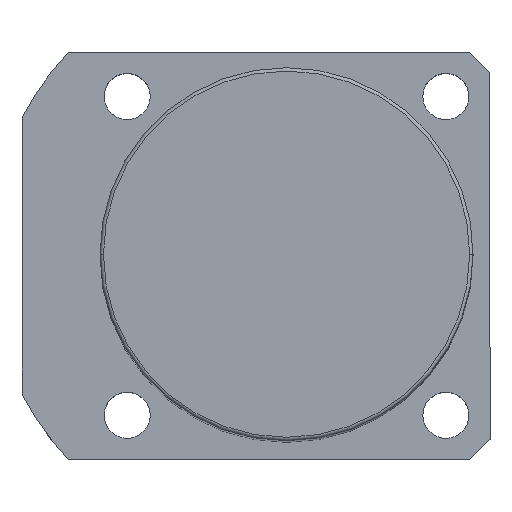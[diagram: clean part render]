
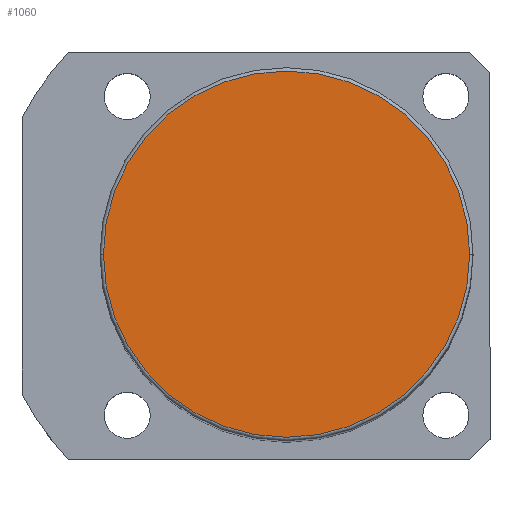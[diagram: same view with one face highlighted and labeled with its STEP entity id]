
A CAD part, top view. The second image highlights one B-rep face of the part: STEP entity #1060.
In plain terms, the highlighted planar face has unit normal (0, 0, 1).
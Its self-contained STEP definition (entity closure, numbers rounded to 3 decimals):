
#4 = CARTESIAN_POINT ( 'NONE',  ( 0., 0., 151. ) ) ;
#70 = EDGE_CURVE ( 'NONE', #1755, #622, #789, .T. ) ;
#72 = AXIS2_PLACEMENT_3D ( 'NONE', #1501, #666, #951 ) ;
#289 = DIRECTION ( 'NONE',  ( 0., 0., 1. ) ) ;
#443 = DIRECTION ( 'NONE',  ( 0., 0., 1. ) ) ;
#576 = CARTESIAN_POINT ( 'NONE',  ( -27., 0., 151. ) ) ;
#622 = VERTEX_POINT ( 'NONE', #1289 ) ;
#666 = DIRECTION ( 'NONE',  ( 0., 0., 1. ) ) ;
#668 = AXIS2_PLACEMENT_3D ( 'NONE', #4, #289, #1000 ) ;
#789 = CIRCLE ( 'NONE', #72, 27. ) ;
#851 = DIRECTION ( 'NONE',  ( 1., 0., 0. ) ) ;
#951 = DIRECTION ( 'NONE',  ( 1., 0., 0. ) ) ;
#1000 = DIRECTION ( 'NONE',  ( 1., 0., 0. ) ) ;
#1002 = CARTESIAN_POINT ( 'NONE',  ( 0., 0., 151. ) ) ;
#1035 = EDGE_LOOP ( 'NONE', ( #1532, #1702 ) ) ;
#1060 = ADVANCED_FACE ( 'NONE', ( #1708 ), #1142, .T. ) ;
#1142 = PLANE ( 'NONE',  #1195 ) ;
#1195 = AXIS2_PLACEMENT_3D ( 'NONE', #1002, #443, #851 ) ;
#1289 = CARTESIAN_POINT ( 'NONE',  ( 27., 0., 151. ) ) ;
#1422 = EDGE_CURVE ( 'NONE', #622, #1755, #1539, .T. ) ;
#1501 = CARTESIAN_POINT ( 'NONE',  ( 0., 0., 151. ) ) ;
#1532 = ORIENTED_EDGE ( 'NONE', *, *, #1422, .T. ) ;
#1539 = CIRCLE ( 'NONE', #668, 27. ) ;
#1702 = ORIENTED_EDGE ( 'NONE', *, *, #70, .T. ) ;
#1708 = FACE_OUTER_BOUND ( 'NONE', #1035, .T. ) ;
#1755 = VERTEX_POINT ( 'NONE', #576 ) ;
